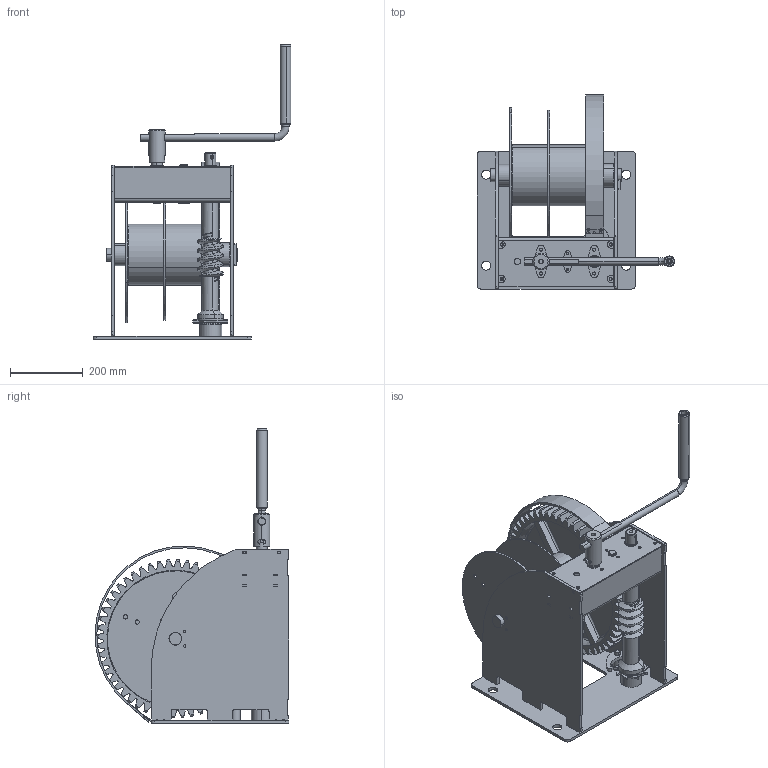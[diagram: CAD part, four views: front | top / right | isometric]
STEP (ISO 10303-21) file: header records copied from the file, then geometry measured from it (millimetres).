
FILE_DESCRIPTION (( 'STEP AP203' ), '1' );
FILE_NAME ('SL9051 WW4000 2D.STEP', '2015-09-16T09:13:37', ( '.' ), ( '.' ), 'SwSTEP 2.0', 'SolidWorks 2015', '' );
FILE_SCHEMA (( 'CONFIG_CONTROL_DESIGN' ));
Length unit declared in the file: millimetre
Products named in the file (41): SL1429 voorbrug; SL1320 Flenslager GFL-30; SL1437 achterplaat; SL1257 naaldlager AWX40; SL0192_Meenemer; SL0369_Slingerarm; SL1430 Sam voorbrug_Zonder lagers; SL1337 aandrijfas; SL1436 zijplaat; SL1256 lagerschijf AS4060; SL0175_tussenflens_3000; SL0370_Handvat; SL1336 tussenas; SL1428 achterbrug; SL1456 beschermkap; SL0218_Sam trommel_2D; SL0371_Sam slinger; SL0206_Tandwiel m3z15; SL1341 bevestigingsplaat; spur gear_din_DIN - Spur gear 3M 34T 20PA 28FW ---S34A75H50L30.0R1; SL0823_glijlager_3520; SL1438 wormas; SL1234_pal_WWgroot; SL1347 beschermkapplaat; SL9051 WW4000 2D; SL1233_palwiel_WW; SL0227_Wormwiel; SL1334 remschijf; SL1275 Lagerrring AWX40_Met kraag; SL1258 Lagerbus; SL0196_Lagerring GL3520; SL1339 borgplaat; SL1235_Palas_Met kraag; SL1230 Sam palwiel; SL0225_Trommelflens; SL1432 trommelas; SL1439 Sam huis; SL1321 Flenslager GFL-20; SL1276 Lager RS40_27-38-20; SL0224_Trommelbuis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
Assembly tree (52 placements, depth 3):
  SL9051 WW4000 2D
    SL1439 Sam huis
      SL1437 achterplaat
      SL1436 zijplaat  x2
      SL1428 achterbrug
      SL1341 bevestigingsplaat  x4
      SL1347 beschermkapplaat
      SL1275 Lagerrring AWX40_Met kraag
      SL1235_Palas_Met kraag
    SL1430 Sam voorbrug_Zonder lagers
      SL1429 voorbrug
      SL1347 beschermkapplaat
    SL1321 Flenslager GFL-20  x2
    SL1320 Flenslager GFL-30  x3
    SL1337 aandrijfas
    SL1336 tussenas
    SL0206_Tandwiel m3z15  x2
    SL1234_pal_WWgroot
    SL1334 remschijf
    SL1339 borgplaat
    SL1432 trommelas
    SL0368_Slingerkop
    SL0371_Sam slinger
      SL0369_Slingerarm
      SL0370_Handvat
    SL1438 wormas
    SL0218_Sam trommel_2D
      SL0227_Wormwiel
      SL0196_Lagerring GL3520
      SL0225_Trommelflens
      SL0224_Trommelbuis
      SL0192_Meenemer  x3
      SL0175_tussenflens_3000
    SL0823_glijlager_3520
    SL1230 Sam palwiel
      SL1233_palwiel_WW
      SL1258 Lagerbus
    SL1276 Lager RS40_27-38-20
    SL1257 naaldlager AWX40
    SL1256 lagerschijf AS4060
    SL1456 beschermkap
    spur gear_din_DIN - Spur gear 3M 34T 20PA 28FW ---S34A75H50L30.0R1  x2
Bounding box: 545.04 x 534.58 x 812 mm (x, y, z)
Volume: 11632575.7 mm3; surface area: 2875351.2 mm2
Topology: 47 solids, 47 shells, 1980 faces, 5365 edges, 3526 vertices
Faces by surface type: cylinder 1094, plane 590, cone 241, bspline 36, torus 19
Entity records: 70684 total; most frequent: CARTESIAN_POINT 28062, DIRECTION 8230, ORIENTED_EDGE 7888, EDGE_CURVE 3944, AXIS2_PLACEMENT_3D 3221, VERTEX_POINT 2582, LINE 1788, VECTOR 1788
